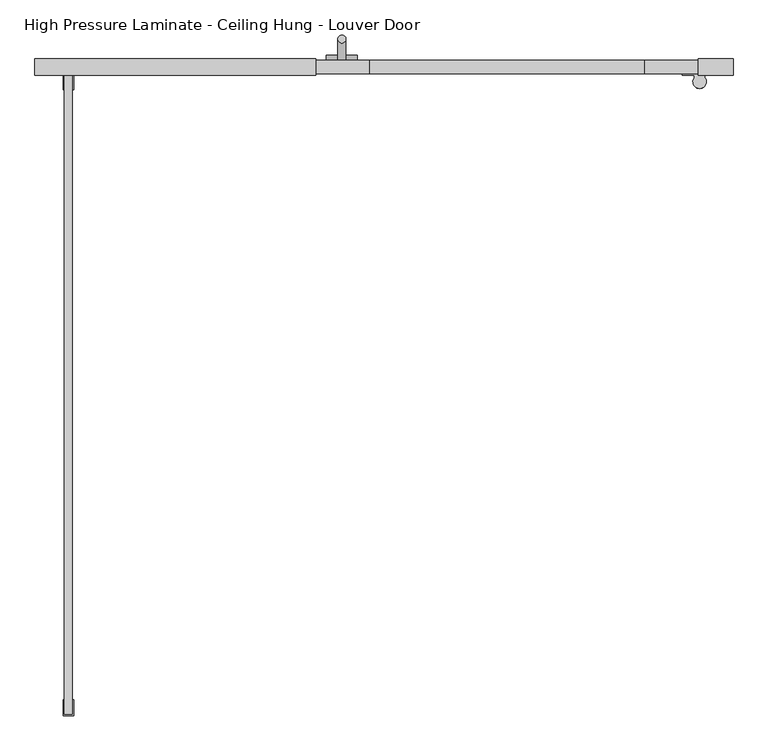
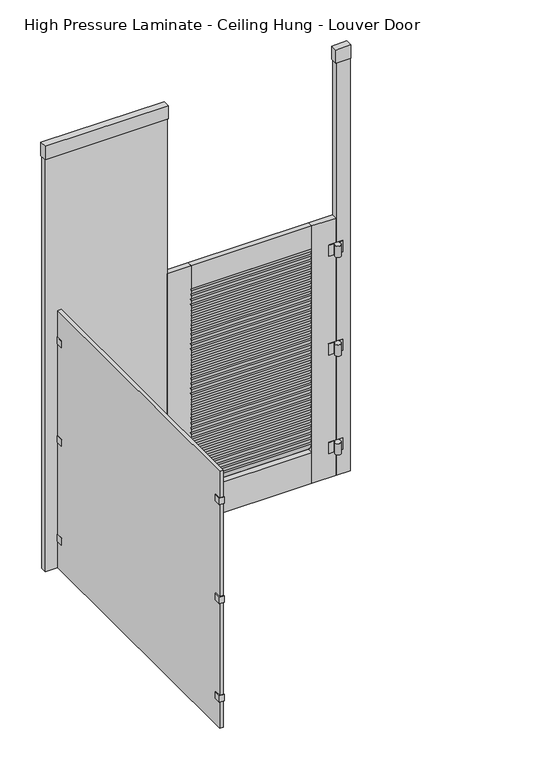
"""IFC4 building model written with IfcOpenShell, lengths in millimetres: proxy geometry, Toilet-Partition_Ironwood-Mfg_High-Pressure-Laminate : High Pressure Laminate - Ceiling Hung - Louver Door."""

from ifc_helpers import new_model, si_unit, point, frame, frame_2d, origin, place, context, project, spatial, polyline, circle_curve, ellipse_curve, trimmed, segment, composite_curve, outline, extrude, source, transform, mapped, element, save
from ifc_brep_helpers import plane_surface, cylinder_surface, advanced_brep


def high_pressure_laminate_ceiling_hung_louver_door_24030e85(model_context):
    return source(origin(), model_context, "Body", "SolidModel", [
        extrude(outline(polyline([(695.325, 1558.925), (777.875, 1558.925), (777.875, 1520.825), (695.325, 1520.825), (695.325, 1558.925)])), frame((0.0, 0.0, 2667.0), z_axis=(0.0, 0.0, 1.0), x_axis=(1.0, 0.0, 0.0)), (0.0, 0.0, 1.0), 76.1999999),
        extrude(outline(polyline([(0.0, -76.2), (0.0, 0.0), (31.75, 0.0), (31.75, -76.2), (0.0, -76.2)])), frame((698.5, 1524.0, 304.8), z_axis=(2.3625545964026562e-12, 0.0, 1.0), x_axis=(0.0, 1.0, 0.0)), (0.0, 0.0, 1.0), 2362.2),
        extrude(outline(polyline([(-212.725, 1558.925), (-212.725, 1520.825), (-879.475, 1520.825), (-879.475, 1558.925), (-212.725, 1558.925)])), frame((0.0, 0.0, 2667.0), z_axis=(0.0, 0.0, 1.0), x_axis=(1.0, 0.0, 0.0)), (0.0, 0.0, 1.0), 76.1999999),
        extrude(outline(polyline([(-876.3, 1524.0), (-876.3, 1555.75), (-215.9, 1555.75), (-215.9, 1524.0), (-876.3, 1524.0)])), frame((0.0, 0.0, 304.8), z_axis=(0.0, 0.0, 1.0), x_axis=(1.0, 0.0, 0.0)), (0.0, 0.0, 1.0), 2362.2),
        extrude(outline(composite_curve([segment(trimmed(circle_curve(frame_2d((1530.4138614, 1607.2565147)), 4.7625), [point((1526.1333548, 1605.1687721))], [point((1534.6943681, 1609.3442573))], False, "CARTESIAN"), True, "CONTINUOUS"), segment(polyline([(1534.6943681, 1609.3442573), (1553.8502647, 1570.0688488)]), True, "CONTINUOUS"), segment(trimmed(circle_curve(frame_2d((1549.5697581, 1567.9811062)), 4.7625), [point((1553.8502647, 1570.0688488))], [point((1545.2892514, 1565.8933636))], False, "CARTESIAN"), True, "CONTINUOUS"), segment(polyline([(1545.2892514, 1565.8933636), (1526.1333548, 1605.1687721)]), True, "CONTINUOUS")], self_intersect=False)), frame((-85.725, 0.0, 0.0), z_axis=(1.0, 0.0, 0.0), x_axis=(0.0, 1.0, 0.0)), (0.0, 0.0, 1.0), 654.05),
        extrude(outline(composite_curve([segment(trimmed(circle_curve(frame_2d((1530.4138614, 1578.9402604)), 4.7625), [point((1526.1333548, 1576.8525178))], [point((1534.6943681, 1581.0280029))], False, "CARTESIAN"), True, "CONTINUOUS"), segment(polyline([(1534.6943681, 1581.0280029), (1553.8502647, 1541.7525944)]), True, "CONTINUOUS"), segment(trimmed(circle_curve(frame_2d((1549.5697581, 1539.6648519)), 4.7625), [point((1553.8502647, 1541.7525944))], [point((1545.2892514, 1537.5771093))], False, "CARTESIAN"), True, "CONTINUOUS"), segment(polyline([(1545.2892514, 1537.5771093), (1526.1333548, 1576.8525178)]), True, "CONTINUOUS")], self_intersect=False)), frame((-85.725, 0.0, 0.0), z_axis=(1.0, 0.0, 0.0), x_axis=(0.0, 1.0, 0.0)), (0.0, 0.0, 1.0), 654.05),
        extrude(outline(composite_curve([segment(trimmed(circle_curve(frame_2d((1530.4138614, 1550.624006)), 4.7625), [point((1526.1333548, 1548.5362634))], [point((1534.6943681, 1552.7117486))], False, "CARTESIAN"), True, "CONTINUOUS"), segment(polyline([(1534.6943681, 1552.7117486), (1553.8502647, 1513.4363401)]), True, "CONTINUOUS"), segment(trimmed(circle_curve(frame_2d((1549.5697581, 1511.3485975)), 4.7625), [point((1553.8502647, 1513.4363401))], [point((1545.2892514, 1509.2608549))], False, "CARTESIAN"), True, "CONTINUOUS"), segment(polyline([(1545.2892514, 1509.2608549), (1526.1333548, 1548.5362634)]), True, "CONTINUOUS")], self_intersect=False)), frame((-85.725, 0.0, 0.0), z_axis=(1.0, 0.0, 0.0), x_axis=(0.0, 1.0, 0.0)), (0.0, 0.0, 1.0), 654.05),
        extrude(outline(composite_curve([segment(trimmed(circle_curve(frame_2d((1530.4138614, 1522.3077516)), 4.7625), [point((1526.1333548, 1520.220009))], [point((1534.6943681, 1524.3954942))], False, "CARTESIAN"), True, "CONTINUOUS"), segment(polyline([(1534.6943681, 1524.3954942), (1553.8502647, 1485.1200857)]), True, "CONTINUOUS"), segment(trimmed(circle_curve(frame_2d((1549.5697581, 1483.0323431)), 4.7625), [point((1553.8502647, 1485.1200857))], [point((1545.2892514, 1480.9446005))], False, "CARTESIAN"), True, "CONTINUOUS"), segment(polyline([(1545.2892514, 1480.9446005), (1526.1333548, 1520.220009)]), True, "CONTINUOUS")], self_intersect=False)), frame((-85.725, 0.0, 0.0), z_axis=(1.0, 0.0, 0.0), x_axis=(0.0, 1.0, 0.0)), (0.0, 0.0, 1.0), 654.05),
        extrude(outline(composite_curve([segment(trimmed(circle_curve(frame_2d((1530.4138614, 1493.9914973)), 4.7625), [point((1526.1333548, 1491.9037547))], [point((1534.6943681, 1496.0792398))], False, "CARTESIAN"), True, "CONTINUOUS"), segment(polyline([(1534.6943681, 1496.0792398), (1553.8502647, 1456.8038313)]), True, "CONTINUOUS"), segment(trimmed(circle_curve(frame_2d((1549.5697581, 1454.7160888)), 4.7625), [point((1553.8502647, 1456.8038313))], [point((1545.2892514, 1452.6283462))], False, "CARTESIAN"), True, "CONTINUOUS"), segment(polyline([(1545.2892514, 1452.6283462), (1526.1333548, 1491.9037547)]), True, "CONTINUOUS")], self_intersect=False)), frame((-85.725, 0.0, 0.0), z_axis=(1.0, 0.0, 0.0), x_axis=(0.0, 1.0, 0.0)), (0.0, 0.0, 1.0), 654.05),
        extrude(outline(composite_curve([segment(trimmed(circle_curve(frame_2d((1530.4138614, 1465.6752429)), 4.7625), [point((1526.1333548, 1463.5875003))], [point((1534.6943681, 1467.7629855))], False, "CARTESIAN"), True, "CONTINUOUS"), segment(polyline([(1534.6943681, 1467.7629855), (1553.8502647, 1428.487577)]), True, "CONTINUOUS"), segment(trimmed(circle_curve(frame_2d((1549.5697581, 1426.3998344)), 4.7625), [point((1553.8502647, 1428.487577))], [point((1545.2892514, 1424.3120918))], False, "CARTESIAN"), True, "CONTINUOUS"), segment(polyline([(1545.2892514, 1424.3120918), (1526.1333548, 1463.5875003)]), True, "CONTINUOUS")], self_intersect=False)), frame((-85.725, 0.0, 0.0), z_axis=(1.0, 0.0, 0.0), x_axis=(0.0, 1.0, 0.0)), (0.0, 0.0, 1.0), 654.05),
        extrude(outline(composite_curve([segment(trimmed(circle_curve(frame_2d((1530.4138614, 1437.3589885)), 4.7625), [point((1526.1333548, 1435.2712459))], [point((1534.6943681, 1439.4467311))], False, "CARTESIAN"), True, "CONTINUOUS"), segment(polyline([(1534.6943681, 1439.4467311), (1553.8502647, 1400.1713226)]), True, "CONTINUOUS"), segment(trimmed(circle_curve(frame_2d((1549.5697581, 1398.08358)), 4.7625), [point((1553.8502647, 1400.1713226))], [point((1545.2892514, 1395.9958374))], False, "CARTESIAN"), True, "CONTINUOUS"), segment(polyline([(1545.2892514, 1395.9958374), (1526.1333548, 1435.2712459)]), True, "CONTINUOUS")], self_intersect=False)), frame((-85.725, 0.0, 0.0), z_axis=(1.0, 0.0, 0.0), x_axis=(0.0, 1.0, 0.0)), (0.0, 0.0, 1.0), 654.05),
        extrude(outline(composite_curve([segment(trimmed(circle_curve(frame_2d((1530.4138614, 1409.0427342)), 4.7625), [point((1526.1333548, 1406.9549916))], [point((1534.6943681, 1411.1304767))], False, "CARTESIAN"), True, "CONTINUOUS"), segment(polyline([(1534.6943681, 1411.1304767), (1553.8502647, 1371.8550682)]), True, "CONTINUOUS"), segment(trimmed(circle_curve(frame_2d((1549.5697581, 1369.7673257)), 4.7625), [point((1553.8502647, 1371.8550682))], [point((1545.2892514, 1367.6795831))], False, "CARTESIAN"), True, "CONTINUOUS"), segment(polyline([(1545.2892514, 1367.6795831), (1526.1333548, 1406.9549916)]), True, "CONTINUOUS")], self_intersect=False)), frame((-85.725, 0.0, 0.0), z_axis=(1.0, 0.0, 0.0), x_axis=(0.0, 1.0, 0.0)), (0.0, 0.0, 1.0), 654.05),
        extrude(outline(composite_curve([segment(trimmed(circle_curve(frame_2d((1530.4138614, 1380.7264798)), 4.7625), [point((1526.1333548, 1378.6387372))], [point((1534.6943681, 1382.8142224))], False, "CARTESIAN"), True, "CONTINUOUS"), segment(polyline([(1534.6943681, 1382.8142224), (1553.8502647, 1343.5388139)]), True, "CONTINUOUS"), segment(trimmed(circle_curve(frame_2d((1549.5697581, 1341.4510713)), 4.7625), [point((1553.8502647, 1343.5388139))], [point((1545.2892514, 1339.3633287))], False, "CARTESIAN"), True, "CONTINUOUS"), segment(polyline([(1545.2892514, 1339.3633287), (1526.1333548, 1378.6387372)]), True, "CONTINUOUS")], self_intersect=False)), frame((-85.725, 0.0, 0.0), z_axis=(1.0, 0.0, 0.0), x_axis=(0.0, 1.0, 0.0)), (0.0, 0.0, 1.0), 654.05),
        extrude(outline(composite_curve([segment(trimmed(circle_curve(frame_2d((1530.4138614, 1352.4102254)), 4.7625), [point((1526.1333548, 1350.3224828))], [point((1534.6943681, 1354.497968))], False, "CARTESIAN"), True, "CONTINUOUS"), segment(polyline([(1534.6943681, 1354.497968), (1553.8502647, 1315.2225595)]), True, "CONTINUOUS"), segment(trimmed(circle_curve(frame_2d((1549.5697581, 1313.1348169)), 4.7625), [point((1553.8502647, 1315.2225595))], [point((1545.2892514, 1311.0470743))], False, "CARTESIAN"), True, "CONTINUOUS"), segment(polyline([(1545.2892514, 1311.0470743), (1526.1333548, 1350.3224828)]), True, "CONTINUOUS")], self_intersect=False)), frame((-85.725, 0.0, 0.0), z_axis=(1.0, 0.0, 0.0), x_axis=(0.0, 1.0, 0.0)), (0.0, 0.0, 1.0), 654.05),
        extrude(outline(composite_curve([segment(trimmed(circle_curve(frame_2d((1530.4138614, 1324.0939711)), 4.7625), [point((1526.1333548, 1322.0062285))], [point((1534.6943681, 1326.1817137))], False, "CARTESIAN"), True, "CONTINUOUS"), segment(polyline([(1534.6943681, 1326.1817137), (1553.8502647, 1286.9063052)]), True, "CONTINUOUS"), segment(trimmed(circle_curve(frame_2d((1549.5697581, 1284.8185626)), 4.7625), [point((1553.8502647, 1286.9063052))], [point((1545.2892514, 1282.73082))], False, "CARTESIAN"), True, "CONTINUOUS"), segment(polyline([(1545.2892514, 1282.73082), (1526.1333548, 1322.0062285)]), True, "CONTINUOUS")], self_intersect=False)), frame((-85.725, 0.0, 0.0), z_axis=(1.0, 0.0, 0.0), x_axis=(0.0, 1.0, 0.0)), (0.0, 0.0, 1.0), 654.05),
        extrude(outline(composite_curve([segment(trimmed(circle_curve(frame_2d((1530.4138614, 1295.7777167)), 4.7625), [point((1526.1333548, 1293.6899741))], [point((1534.6943681, 1297.8654593))], False, "CARTESIAN"), True, "CONTINUOUS"), segment(polyline([(1534.6943681, 1297.8654593), (1553.8502647, 1258.5900508)]), True, "CONTINUOUS"), segment(trimmed(circle_curve(frame_2d((1549.5697581, 1256.5023082)), 4.7625), [point((1553.8502647, 1258.5900508))], [point((1545.2892514, 1254.4145656))], False, "CARTESIAN"), True, "CONTINUOUS"), segment(polyline([(1545.2892514, 1254.4145656), (1526.1333548, 1293.6899741)]), True, "CONTINUOUS")], self_intersect=False)), frame((-85.725, 0.0, 0.0), z_axis=(1.0, 0.0, 0.0), x_axis=(0.0, 1.0, 0.0)), (0.0, 0.0, 1.0), 654.05),
        extrude(outline(composite_curve([segment(trimmed(circle_curve(frame_2d((1530.4138614, 1267.4614623)), 4.7625), [point((1526.1333548, 1265.3737197))], [point((1534.6943681, 1269.5492049))], False, "CARTESIAN"), True, "CONTINUOUS"), segment(polyline([(1534.6943681, 1269.5492049), (1553.8502647, 1230.2737964)]), True, "CONTINUOUS"), segment(trimmed(circle_curve(frame_2d((1549.5697581, 1228.1860538)), 4.7625), [point((1553.8502647, 1230.2737964))], [point((1545.2892514, 1226.0983112))], False, "CARTESIAN"), True, "CONTINUOUS"), segment(polyline([(1545.2892514, 1226.0983112), (1526.1333548, 1265.3737197)]), True, "CONTINUOUS")], self_intersect=False)), frame((-85.725, 0.0, 0.0), z_axis=(1.0, 0.0, 0.0), x_axis=(0.0, 1.0, 0.0)), (0.0, 0.0, 1.0), 654.05),
        extrude(outline(composite_curve([segment(trimmed(circle_curve(frame_2d((1530.4138614, 1239.145208)), 4.7625), [point((1526.1333548, 1237.0574654))], [point((1534.6943681, 1241.2329506))], False, "CARTESIAN"), True, "CONTINUOUS"), segment(polyline([(1534.6943681, 1241.2329506), (1553.8502647, 1201.9575421)]), True, "CONTINUOUS"), segment(trimmed(circle_curve(frame_2d((1549.5697581, 1199.8697995)), 4.7625), [point((1553.8502647, 1201.9575421))], [point((1545.2892514, 1197.7820569))], False, "CARTESIAN"), True, "CONTINUOUS"), segment(polyline([(1545.2892514, 1197.7820569), (1526.1333548, 1237.0574654)]), True, "CONTINUOUS")], self_intersect=False)), frame((-85.725, 0.0, 0.0), z_axis=(1.0, 0.0, 0.0), x_axis=(0.0, 1.0, 0.0)), (0.0, 0.0, 1.0), 654.05),
        extrude(outline(composite_curve([segment(trimmed(circle_curve(frame_2d((1530.4138614, 1210.8289536)), 4.7625), [point((1526.1333548, 1208.741211))], [point((1534.6943681, 1212.9166962))], False, "CARTESIAN"), True, "CONTINUOUS"), segment(polyline([(1534.6943681, 1212.9166962), (1553.8502647, 1173.6412877)]), True, "CONTINUOUS"), segment(trimmed(circle_curve(frame_2d((1549.5697581, 1171.5535451)), 4.7625), [point((1553.8502647, 1173.6412877))], [point((1545.2892514, 1169.4658025))], False, "CARTESIAN"), True, "CONTINUOUS"), segment(polyline([(1545.2892514, 1169.4658025), (1526.1333548, 1208.741211)]), True, "CONTINUOUS")], self_intersect=False)), frame((-85.725, 0.0, 0.0), z_axis=(1.0, 0.0, 0.0), x_axis=(0.0, 1.0, 0.0)), (0.0, 0.0, 1.0), 654.05),
        extrude(outline(composite_curve([segment(trimmed(circle_curve(frame_2d((1530.4138614, 1182.5126992)), 4.7625), [point((1526.1333548, 1180.4249567))], [point((1534.6943681, 1184.6004418))], False, "CARTESIAN"), True, "CONTINUOUS"), segment(polyline([(1534.6943681, 1184.6004418), (1553.8502647, 1145.3250333)]), True, "CONTINUOUS"), segment(trimmed(circle_curve(frame_2d((1549.5697581, 1143.2372907)), 4.7625), [point((1553.8502647, 1145.3250333))], [point((1545.2892514, 1141.1495482))], False, "CARTESIAN"), True, "CONTINUOUS"), segment(polyline([(1545.2892514, 1141.1495482), (1526.1333548, 1180.4249567)]), True, "CONTINUOUS")], self_intersect=False)), frame((-85.725, 0.0, 0.0), z_axis=(1.0, 0.0, 0.0), x_axis=(0.0, 1.0, 0.0)), (0.0, 0.0, 1.0), 654.05),
        extrude(outline(composite_curve([segment(trimmed(circle_curve(frame_2d((1530.4138614, 1154.1964449)), 4.7625), [point((1526.1333548, 1152.1087023))], [point((1534.6943681, 1156.2841875))], False, "CARTESIAN"), True, "CONTINUOUS"), segment(polyline([(1534.6943681, 1156.2841875), (1553.8502647, 1117.008779)]), True, "CONTINUOUS"), segment(trimmed(circle_curve(frame_2d((1549.5697581, 1114.9210364)), 4.7625), [point((1553.8502647, 1117.008779))], [point((1545.2892514, 1112.8332938))], False, "CARTESIAN"), True, "CONTINUOUS"), segment(polyline([(1545.2892514, 1112.8332938), (1526.1333548, 1152.1087023)]), True, "CONTINUOUS")], self_intersect=False)), frame((-85.725, 0.0, 0.0), z_axis=(1.0, 0.0, 0.0), x_axis=(0.0, 1.0, 0.0)), (0.0, 0.0, 1.0), 654.05),
        extrude(outline(composite_curve([segment(trimmed(circle_curve(frame_2d((1530.4138614, 1125.8801905)), 4.7625), [point((1526.1333548, 1123.7924479))], [point((1534.6943681, 1127.9679331))], False, "CARTESIAN"), True, "CONTINUOUS"), segment(polyline([(1534.6943681, 1127.9679331), (1553.8502647, 1088.6925246)]), True, "CONTINUOUS"), segment(trimmed(circle_curve(frame_2d((1549.5697581, 1086.604782)), 4.7625), [point((1553.8502647, 1088.6925246))], [point((1545.2892514, 1084.5170394))], False, "CARTESIAN"), True, "CONTINUOUS"), segment(polyline([(1545.2892514, 1084.5170394), (1526.1333548, 1123.7924479)]), True, "CONTINUOUS")], self_intersect=False)), frame((-85.725, 0.0, 0.0), z_axis=(1.0, 0.0, 0.0), x_axis=(0.0, 1.0, 0.0)), (0.0, 0.0, 1.0), 654.05),
        extrude(outline(composite_curve([segment(trimmed(circle_curve(frame_2d((1530.4138614, 1097.5639361)), 4.7625), [point((1526.1333548, 1095.4761936))], [point((1534.6943681, 1099.6516787))], False, "CARTESIAN"), True, "CONTINUOUS"), segment(polyline([(1534.6943681, 1099.6516787), (1553.8502647, 1060.3762702)]), True, "CONTINUOUS"), segment(trimmed(circle_curve(frame_2d((1549.5697581, 1058.2885276)), 4.7625), [point((1553.8502647, 1060.3762702))], [point((1545.2892514, 1056.2007851))], False, "CARTESIAN"), True, "CONTINUOUS"), segment(polyline([(1545.2892514, 1056.2007851), (1526.1333548, 1095.4761936)]), True, "CONTINUOUS")], self_intersect=False)), frame((-85.725, 0.0, 0.0), z_axis=(1.0, 0.0, 0.0), x_axis=(0.0, 1.0, 0.0)), (0.0, 0.0, 1.0), 654.05),
        extrude(outline(composite_curve([segment(trimmed(circle_curve(frame_2d((1530.4138614, 1069.2476818)), 4.7625), [point((1526.1333548, 1067.1599392))], [point((1534.6943681, 1071.3354244))], False, "CARTESIAN"), True, "CONTINUOUS"), segment(polyline([(1534.6943681, 1071.3354244), (1553.8502647, 1032.0600159)]), True, "CONTINUOUS"), segment(trimmed(circle_curve(frame_2d((1549.5697581, 1029.9722733)), 4.7625), [point((1553.8502647, 1032.0600159))], [point((1545.2892514, 1027.8845307))], False, "CARTESIAN"), True, "CONTINUOUS"), segment(polyline([(1545.2892514, 1027.8845307), (1526.1333548, 1067.1599392)]), True, "CONTINUOUS")], self_intersect=False)), frame((-85.725, 0.0, 0.0), z_axis=(1.0, 0.0, 0.0), x_axis=(0.0, 1.0, 0.0)), (0.0, 0.0, 1.0), 654.05),
        extrude(outline(composite_curve([segment(trimmed(circle_curve(frame_2d((1530.4138614, 1040.9314274)), 4.7625), [point((1526.1333548, 1038.8436848))], [point((1534.6943681, 1043.01917))], False, "CARTESIAN"), True, "CONTINUOUS"), segment(polyline([(1534.6943681, 1043.01917), (1553.8502647, 1003.7437615)]), True, "CONTINUOUS"), segment(trimmed(circle_curve(frame_2d((1549.5697581, 1001.6560189)), 4.7625), [point((1553.8502647, 1003.7437615))], [point((1545.2892514, 999.5682763))], False, "CARTESIAN"), True, "CONTINUOUS"), segment(polyline([(1545.2892514, 999.5682763), (1526.1333548, 1038.8436848)]), True, "CONTINUOUS")], self_intersect=False)), frame((-85.725, 0.0, 0.0), z_axis=(1.0, 0.0, 0.0), x_axis=(0.0, 1.0, 0.0)), (0.0, 0.0, 1.0), 654.05),
        extrude(outline(composite_curve([segment(trimmed(circle_curve(frame_2d((1530.4138614, 1012.615173)), 4.7625), [point((1526.1333548, 1010.5274305))], [point((1534.6943681, 1014.7029156))], False, "CARTESIAN"), True, "CONTINUOUS"), segment(polyline([(1534.6943681, 1014.7029156), (1553.8502647, 975.4275071)]), True, "CONTINUOUS"), segment(trimmed(circle_curve(frame_2d((1549.5697581, 973.3397645)), 4.7625), [point((1553.8502647, 975.4275071))], [point((1545.2892514, 971.252022))], False, "CARTESIAN"), True, "CONTINUOUS"), segment(polyline([(1545.2892514, 971.252022), (1526.1333548, 1010.5274305)]), True, "CONTINUOUS")], self_intersect=False)), frame((-85.725, 0.0, 0.0), z_axis=(1.0, 0.0, 0.0), x_axis=(0.0, 1.0, 0.0)), (0.0, 0.0, 1.0), 654.05),
        extrude(outline(composite_curve([segment(trimmed(circle_curve(frame_2d((1530.4138614, 984.2989187)), 4.7625), [point((1526.1333548, 982.2111761))], [point((1534.6943681, 986.3866613))], False, "CARTESIAN"), True, "CONTINUOUS"), segment(polyline([(1534.6943681, 986.3866613), (1553.8502647, 947.1112528)]), True, "CONTINUOUS"), segment(trimmed(circle_curve(frame_2d((1549.5697581, 945.0235102)), 4.7625), [point((1553.8502647, 947.1112528))], [point((1545.2892514, 942.9357676))], False, "CARTESIAN"), True, "CONTINUOUS"), segment(polyline([(1545.2892514, 942.9357676), (1526.1333548, 982.2111761)]), True, "CONTINUOUS")], self_intersect=False)), frame((-85.725, 0.0, 0.0), z_axis=(1.0, 0.0, 0.0), x_axis=(0.0, 1.0, 0.0)), (0.0, 0.0, 1.0), 654.05),
        extrude(outline(composite_curve([segment(trimmed(circle_curve(frame_2d((1530.4138614, 955.9826643)), 4.7625), [point((1526.1333548, 953.8949217))], [point((1534.6943681, 958.0704069))], False, "CARTESIAN"), True, "CONTINUOUS"), segment(polyline([(1534.6943681, 958.0704069), (1553.8502647, 918.7949984)]), True, "CONTINUOUS"), segment(trimmed(circle_curve(frame_2d((1549.5697581, 916.7072558)), 4.7625), [point((1553.8502647, 918.7949984))], [point((1545.2892514, 914.6195132))], False, "CARTESIAN"), True, "CONTINUOUS"), segment(polyline([(1545.2892514, 914.6195132), (1526.1333548, 953.8949217)]), True, "CONTINUOUS")], self_intersect=False)), frame((-85.725, 0.0, 0.0), z_axis=(1.0, 0.0, 0.0), x_axis=(0.0, 1.0, 0.0)), (0.0, 0.0, 1.0), 654.05),
        extrude(outline(composite_curve([segment(trimmed(circle_curve(frame_2d((1530.4138614, 927.6664099)), 4.7625), [point((1526.1333548, 925.5786674))], [point((1534.6943681, 929.7541525))], False, "CARTESIAN"), True, "CONTINUOUS"), segment(polyline([(1534.6943681, 929.7541525), (1553.8502647, 890.478744)]), True, "CONTINUOUS"), segment(trimmed(circle_curve(frame_2d((1549.5697581, 888.3910014)), 4.7625), [point((1553.8502647, 890.478744))], [point((1545.2892514, 886.3032589))], False, "CARTESIAN"), True, "CONTINUOUS"), segment(polyline([(1545.2892514, 886.3032589), (1526.1333548, 925.5786674)]), True, "CONTINUOUS")], self_intersect=False)), frame((-85.725, 0.0, 0.0), z_axis=(1.0, 0.0, 0.0), x_axis=(0.0, 1.0, 0.0)), (0.0, 0.0, 1.0), 654.05),
        extrude(outline(composite_curve([segment(trimmed(circle_curve(frame_2d((1530.4138614, 899.3501556)), 4.7625), [point((1526.1333548, 897.262413))], [point((1534.6943681, 901.4378982))], False, "CARTESIAN"), True, "CONTINUOUS"), segment(polyline([(1534.6943681, 901.4378982), (1553.8502647, 862.1624897)]), True, "CONTINUOUS"), segment(trimmed(circle_curve(frame_2d((1549.5697581, 860.0747471)), 4.7625), [point((1553.8502647, 862.1624897))], [point((1545.2892514, 857.9870045))], False, "CARTESIAN"), True, "CONTINUOUS"), segment(polyline([(1545.2892514, 857.9870045), (1526.1333548, 897.262413)]), True, "CONTINUOUS")], self_intersect=False)), frame((-85.725, 0.0, 0.0), z_axis=(1.0, 0.0, 0.0), x_axis=(0.0, 1.0, 0.0)), (0.0, 0.0, 1.0), 654.05),
        extrude(outline(composite_curve([segment(trimmed(circle_curve(frame_2d((1530.4138614, 871.0339012)), 4.7625), [point((1526.1333548, 868.9461586))], [point((1534.6943681, 873.1216438))], False, "CARTESIAN"), True, "CONTINUOUS"), segment(polyline([(1534.6943681, 873.1216438), (1553.8502647, 833.8462353)]), True, "CONTINUOUS"), segment(trimmed(circle_curve(frame_2d((1549.5697581, 831.7584927)), 4.7625), [point((1553.8502647, 833.8462353))], [point((1545.2892514, 829.6707501))], False, "CARTESIAN"), True, "CONTINUOUS"), segment(polyline([(1545.2892514, 829.6707501), (1526.1333548, 868.9461586)]), True, "CONTINUOUS")], self_intersect=False)), frame((-85.725, 0.0, 0.0), z_axis=(1.0, 0.0, 0.0), x_axis=(0.0, 1.0, 0.0)), (0.0, 0.0, 1.0), 654.05),
        extrude(outline(composite_curve([segment(trimmed(circle_curve(frame_2d((1530.4138614, 842.7176469)), 4.7625), [point((1526.1333548, 840.6299043))], [point((1534.6943681, 844.8053894))], False, "CARTESIAN"), True, "CONTINUOUS"), segment(polyline([(1534.6943681, 844.8053894), (1553.8502647, 805.5299809)]), True, "CONTINUOUS"), segment(trimmed(circle_curve(frame_2d((1549.5697581, 803.4422384)), 4.7625), [point((1553.8502647, 805.5299809))], [point((1545.2892514, 801.3544958))], False, "CARTESIAN"), True, "CONTINUOUS"), segment(polyline([(1545.2892514, 801.3544958), (1526.1333548, 840.6299043)]), True, "CONTINUOUS")], self_intersect=False)), frame((-85.725, 0.0, 0.0), z_axis=(1.0, 0.0, 0.0), x_axis=(0.0, 1.0, 0.0)), (0.0, 0.0, 1.0), 654.05),
        extrude(outline(composite_curve([segment(trimmed(circle_curve(frame_2d((1530.4138614, 814.4013925)), 4.7625), [point((1526.1333548, 812.3136499))], [point((1534.6943681, 816.4891351))], False, "CARTESIAN"), True, "CONTINUOUS"), segment(polyline([(1534.6943681, 816.4891351), (1553.8502647, 777.2137266)]), True, "CONTINUOUS"), segment(trimmed(circle_curve(frame_2d((1549.5697581, 775.125984)), 4.7625), [point((1553.8502647, 777.2137266))], [point((1545.2892514, 773.0382414))], False, "CARTESIAN"), True, "CONTINUOUS"), segment(polyline([(1545.2892514, 773.0382414), (1526.1333548, 812.3136499)]), True, "CONTINUOUS")], self_intersect=False)), frame((-85.725, 0.0, 0.0), z_axis=(1.0, 0.0, 0.0), x_axis=(0.0, 1.0, 0.0)), (0.0, 0.0, 1.0), 654.05),
        extrude(outline(composite_curve([segment(trimmed(circle_curve(frame_2d((1530.4138614, 786.0851381)), 4.7625), [point((1526.1333548, 783.9973955))], [point((1534.6943681, 788.1728807))], False, "CARTESIAN"), True, "CONTINUOUS"), segment(polyline([(1534.6943681, 788.1728807), (1553.8502647, 748.8974722)]), True, "CONTINUOUS"), segment(trimmed(circle_curve(frame_2d((1549.5697581, 746.8097296)), 4.7625), [point((1553.8502647, 748.8974722))], [point((1545.2892514, 744.721987))], False, "CARTESIAN"), True, "CONTINUOUS"), segment(polyline([(1545.2892514, 744.721987), (1526.1333548, 783.9973955)]), True, "CONTINUOUS")], self_intersect=False)), frame((-85.725, 0.0, 0.0), z_axis=(1.0, 0.0, 0.0), x_axis=(0.0, 1.0, 0.0)), (0.0, 0.0, 1.0), 654.05),
        extrude(outline(composite_curve([segment(trimmed(circle_curve(frame_2d((1530.4138614, 757.7688838)), 4.7625), [point((1526.1333548, 755.6811412))], [point((1534.6943681, 759.8566263))], False, "CARTESIAN"), True, "CONTINUOUS"), segment(polyline([(1534.6943681, 759.8566263), (1553.8502647, 720.5812178)]), True, "CONTINUOUS"), segment(trimmed(circle_curve(frame_2d((1549.5697581, 718.4934753)), 4.7625), [point((1553.8502647, 720.5812178))], [point((1545.2892514, 716.4057327))], False, "CARTESIAN"), True, "CONTINUOUS"), segment(polyline([(1545.2892514, 716.4057327), (1526.1333548, 755.6811412)]), True, "CONTINUOUS")], self_intersect=False)), frame((-85.725, 0.0, 0.0), z_axis=(1.0, 0.0, 0.0), x_axis=(0.0, 1.0, 0.0)), (0.0, 0.0, 1.0), 654.05),
        extrude(outline(composite_curve([segment(trimmed(circle_curve(frame_2d((1530.4138614, 729.4526294)), 4.7625), [point((1526.1333548, 727.3648868))], [point((1534.6943681, 731.540372))], False, "CARTESIAN"), True, "CONTINUOUS"), segment(polyline([(1534.6943681, 731.540372), (1553.8502647, 692.2649635)]), True, "CONTINUOUS"), segment(trimmed(circle_curve(frame_2d((1549.5697581, 690.1772209)), 4.7625), [point((1553.8502647, 692.2649635))], [point((1545.2892514, 688.0894783))], False, "CARTESIAN"), True, "CONTINUOUS"), segment(polyline([(1545.2892514, 688.0894783), (1526.1333548, 727.3648868)]), True, "CONTINUOUS")], self_intersect=False)), frame((-85.725, 0.0, 0.0), z_axis=(1.0, 0.0, 0.0), x_axis=(0.0, 1.0, 0.0)), (0.0, 0.0, 1.0), 654.05),
        extrude(outline(composite_curve([segment(trimmed(circle_curve(frame_2d((1530.4138614, 701.136375)), 4.7625), [point((1526.1333548, 699.0486324))], [point((1534.6943681, 703.2241176))], False, "CARTESIAN"), True, "CONTINUOUS"), segment(polyline([(1534.6943681, 703.2241176), (1553.8502647, 663.9487091)]), True, "CONTINUOUS"), segment(trimmed(circle_curve(frame_2d((1549.5697581, 661.8609665)), 4.7625), [point((1553.8502647, 663.9487091))], [point((1545.2892514, 659.7732239))], False, "CARTESIAN"), True, "CONTINUOUS"), segment(polyline([(1545.2892514, 659.7732239), (1526.1333548, 699.0486324)]), True, "CONTINUOUS")], self_intersect=False)), frame((-85.725, 0.0, 0.0), z_axis=(1.0, 0.0, 0.0), x_axis=(0.0, 1.0, 0.0)), (0.0, 0.0, 1.0), 654.05),
        extrude(outline(composite_curve([segment(trimmed(circle_curve(frame_2d((1530.4138614, 672.8201207)), 4.7625), [point((1526.1333548, 670.7323781))], [point((1534.6943681, 674.9078632))], False, "CARTESIAN"), True, "CONTINUOUS"), segment(polyline([(1534.6943681, 674.9078632), (1553.8502647, 635.6324547)]), True, "CONTINUOUS"), segment(trimmed(circle_curve(frame_2d((1549.5697581, 633.5447122)), 4.7625), [point((1553.8502647, 635.6324547))], [point((1545.2892514, 631.4569696))], False, "CARTESIAN"), True, "CONTINUOUS"), segment(polyline([(1545.2892514, 631.4569696), (1526.1333548, 670.7323781)]), True, "CONTINUOUS")], self_intersect=False)), frame((-85.725, 0.0, 0.0), z_axis=(1.0, 0.0, 0.0), x_axis=(0.0, 1.0, 0.0)), (0.0, 0.0, 1.0), 654.05),
        extrude(outline(composite_curve([segment(trimmed(circle_curve(frame_2d((1530.4138614, 644.5038663)), 4.7625), [point((1526.1333548, 642.4161237))], [point((1534.6943681, 646.5916089))], False, "CARTESIAN"), True, "CONTINUOUS"), segment(polyline([(1534.6943681, 646.5916089), (1553.8502647, 607.3162004)]), True, "CONTINUOUS"), segment(trimmed(circle_curve(frame_2d((1549.5697581, 605.2284578)), 4.7625), [point((1553.8502647, 607.3162004))], [point((1545.2892514, 603.1407152))], False, "CARTESIAN"), True, "CONTINUOUS"), segment(polyline([(1545.2892514, 603.1407152), (1526.1333548, 642.4161237)]), True, "CONTINUOUS")], self_intersect=False)), frame((-85.725, 0.0, 0.0), z_axis=(1.0, 0.0, 0.0), x_axis=(0.0, 1.0, 0.0)), (0.0, 0.0, 1.0), 654.05),
        extrude(outline(composite_curve([segment(trimmed(circle_curve(frame_2d((1530.4138614, 616.1876119)), 4.7625), [point((1526.1333548, 614.0998693))], [point((1534.6943681, 618.2753545))], False, "CARTESIAN"), True, "CONTINUOUS"), segment(polyline([(1534.6943681, 618.2753545), (1553.8502647, 578.999946)]), True, "CONTINUOUS"), segment(trimmed(circle_curve(frame_2d((1549.5697581, 576.9122034)), 4.7625), [point((1553.8502647, 578.999946))], [point((1545.2892514, 574.8244608))], False, "CARTESIAN"), True, "CONTINUOUS"), segment(polyline([(1545.2892514, 574.8244608), (1526.1333548, 614.0998693)]), True, "CONTINUOUS")], self_intersect=False)), frame((-85.725, 0.0, 0.0), z_axis=(1.0, 0.0, 0.0), x_axis=(0.0, 1.0, 0.0)), (0.0, 0.0, 1.0), 654.05),
        extrude(outline(composite_curve([segment(trimmed(circle_curve(frame_2d((1530.4138614, 587.8713576)), 4.7625), [point((1526.1333548, 585.783615))], [point((1534.6943681, 589.9591001))], False, "CARTESIAN"), True, "CONTINUOUS"), segment(polyline([(1534.6943681, 589.9591001), (1553.8502647, 550.6836917)]), True, "CONTINUOUS"), segment(trimmed(circle_curve(frame_2d((1549.5697581, 548.5959491)), 4.7625), [point((1553.8502647, 550.6836917))], [point((1545.2892514, 546.5082065))], False, "CARTESIAN"), True, "CONTINUOUS"), segment(polyline([(1545.2892514, 546.5082065), (1526.1333548, 585.783615)]), True, "CONTINUOUS")], self_intersect=False)), frame((-85.725, 0.0, 0.0), z_axis=(1.0, 0.0, 0.0), x_axis=(0.0, 1.0, 0.0)), (0.0, 0.0, 1.0), 654.05),
        extrude(outline(composite_curve([segment(trimmed(circle_curve(frame_2d((1530.4138614, 559.5551032)), 4.7625), [point((1526.1333548, 557.4673606))], [point((1534.6943681, 561.6428458))], False, "CARTESIAN"), True, "CONTINUOUS"), segment(polyline([(1534.6943681, 561.6428458), (1553.8502647, 522.3674373)]), True, "CONTINUOUS"), segment(trimmed(circle_curve(frame_2d((1549.5697581, 520.2796947)), 4.7625), [point((1553.8502647, 522.3674373))], [point((1545.2892514, 518.1919521))], False, "CARTESIAN"), True, "CONTINUOUS"), segment(polyline([(1545.2892514, 518.1919521), (1526.1333548, 557.4673606)]), True, "CONTINUOUS")], self_intersect=False)), frame((-85.725, 0.0, 0.0), z_axis=(1.0, 0.0, 0.0), x_axis=(0.0, 1.0, 0.0)), (0.0, 0.0, 1.0), 654.05),
        extrude(outline(composite_curve([segment(trimmed(circle_curve(frame_2d((1530.4138614, 1635.5727691)), 4.7625), [point((1526.1333548, 1633.4850265))], [point((1534.6943681, 1637.6605117))], False, "CARTESIAN"), True, "CONTINUOUS"), segment(polyline([(1534.6943681, 1637.6605117), (1553.8502647, 1598.3851032)]), True, "CONTINUOUS"), segment(trimmed(circle_curve(frame_2d((1549.5697581, 1596.2973606)), 4.7625), [point((1553.8502647, 1598.3851032))], [point((1545.2892514, 1594.209618))], False, "CARTESIAN"), True, "CONTINUOUS"), segment(polyline([(1545.2892514, 1594.209618), (1526.1333548, 1633.4850265)]), True, "CONTINUOUS")], self_intersect=False)), frame((-85.725, 0.0, 0.0), z_axis=(1.0, 0.0, 0.0), x_axis=(0.0, 1.0, 0.0)), (0.0, 0.0, 1.0), 654.05),
        extrude(outline(composite_curve([segment(trimmed(circle_curve(frame_2d((1530.4138614, 531.2388488)), 4.7625), [point((1526.1333548, 529.1511062))], [point((1534.6943681, 533.3265914))], False, "CARTESIAN"), True, "CONTINUOUS"), segment(polyline([(1534.6943681, 533.3265914), (1553.8502647, 494.0511829)]), True, "CONTINUOUS"), segment(trimmed(circle_curve(frame_2d((1549.5697581, 491.9634403)), 4.7625), [point((1553.8502647, 494.0511829))], [point((1545.2892514, 489.8756977))], False, "CARTESIAN"), True, "CONTINUOUS"), segment(polyline([(1545.2892514, 489.8756977), (1526.1333548, 529.1511062)]), True, "CONTINUOUS")], self_intersect=False)), frame((-85.725, 0.0, 0.0), z_axis=(1.0, 0.0, 0.0), x_axis=(0.0, 1.0, 0.0)), (0.0, 0.0, 1.0), 654.05),
        extrude(outline(polyline([(-85.725, 1524.0), (-215.9, 1524.0), (-215.9, 1555.75), (-85.725, 1555.75), (-85.725, 1524.0)])), frame((0.0, 0.0, 304.8), z_axis=(0.0, 0.0, 1.0), x_axis=(1.0, 0.0, 0.0)), (0.0, 0.0, 1.0), 1473.2),
        extrude(outline(polyline([(568.325, 1524.0), (568.325, 1555.75), (698.5, 1555.75), (698.5, 1524.0), (568.325, 1524.0)])), frame((0.0, 0.0, 304.8), z_axis=(0.0, 0.0, 1.0), x_axis=(1.0, 0.0, 0.0)), (0.0, 0.0, 1.0), 1473.2),
        extrude(outline(polyline([(568.325, 1524.0), (-85.725, 1524.0), (-85.725, 1555.75), (568.325, 1555.75), (568.325, 1524.0)])), frame((0.0, 0.0, 1647.825), z_axis=(0.0, 0.0, 1.0), x_axis=(1.0, 0.0, 0.0)), (0.0, 0.0, 1.0), 130.175),
        extrude(outline(polyline([(568.325, 1524.0), (-85.725, 1524.0), (-85.725, 1555.75), (568.325, 1555.75), (568.325, 1524.0)])), frame((0.0, 0.0, 304.8), z_axis=(0.0, 0.0, 1.0), x_axis=(1.0, 0.0, 0.0)), (0.0, 0.0, 1.0), 174.625),
        extrude(outline(composite_curve([segment(trimmed(circle_curve(frame_2d((827.0875, -150.8125)), 36.5125), [point((827.0875, -187.325))], [point((827.0875, -114.3))], False, "CARTESIAN"), True, "CONTINUOUS"), segment(trimmed(circle_curve(frame_2d((827.0875, -150.8125)), 36.5125), [point((827.0875, -114.3))], [point((827.0875, -187.325))], False, "CARTESIAN"), True, "CONTINUOUS")], self_intersect=False)), frame((0.0, 1555.75, 0.0), z_axis=(0.0, 1.0, 0.0), x_axis=(0.0, 0.0, 1.0)), (0.0, 0.0, 1.0), 12.7),
        advanced_brep(
        [(-160.3375, 1555.75, 1092.2), (-141.2875, 1555.75, 1092.2), (-160.3375, 1555.75, 990.6), (-141.2875, 1555.75, 990.6), (-160.3375, 1606.55, 1092.2), (-141.2875, 1606.55, 1092.2), (-160.3375, 1606.55, 990.6), (-141.2875, 1606.55, 990.6), (-160.3375, 1606.55, 1143.0), (-141.2875, 1606.55, 1143.0), (-160.3375, 1606.55, 939.8), (-141.2875, 1606.55, 939.8)],
        [
            (0, 1, circle_curve(frame((-150.8125, 1555.75, 1092.2), z_axis=(0.0, -1.0, 0.0), x_axis=(1.0, 0.0, 0.0)), 9.525)),
            (1, 0, circle_curve(frame((-150.8125, 1555.75, 1092.2), z_axis=(0.0, -1.0, 0.0), x_axis=(1.0, 0.0, 0.0)), 9.525)),
            (2, 3, circle_curve(frame((-150.8125, 1555.75, 990.6), z_axis=(0.0, -1.0, 0.0), x_axis=(1.0, 0.0, 0.0)), 9.525)),
            (3, 2, circle_curve(frame((-150.8125, 1555.75, 990.6), z_axis=(0.0, -1.0, 0.0), x_axis=(1.0, 0.0, 0.0)), 9.525)),
            (0, 4),
            (4, 5, ellipse_curve(frame((-150.8125, 1606.55, 1092.2), z_axis=(0.0, -0.7071067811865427, 0.7071067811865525), x_axis=(0.0, 0.7071067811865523, 0.7071067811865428)), 13.4703842, 9.525)),
            (5, 1),
            (5, 4, ellipse_curve(frame((-150.8125, 1606.55, 1092.2), z_axis=(0.0, -0.7071067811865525, -0.7071067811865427), x_axis=(0.0, 0.7071067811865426, -0.7071067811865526)), 13.4703842, 9.525)),
            (2, 6),
            (6, 7, ellipse_curve(frame((-150.8125, 1606.55, 990.6), z_axis=(0.0, -0.7071067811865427, 0.7071067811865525), x_axis=(0.0, 0.7071067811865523, 0.7071067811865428)), 13.4703842, 9.525)),
            (7, 3),
            (7, 6, ellipse_curve(frame((-150.8125, 1606.55, 990.6), z_axis=(0.0, -0.7071067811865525, -0.7071067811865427), x_axis=(0.0, 0.7071067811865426, -0.7071067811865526)), 13.4703842, 9.525)),
            (8, 9, circle_curve(frame((-150.8125, 1606.55, 1143.0), z_axis=(0.0, 0.0, 1.0), x_axis=(1.0, 0.0, 0.0)), 9.525)),
            (9, 8, circle_curve(frame((-150.8125, 1606.55, 1143.0), z_axis=(0.0, 0.0, 1.0), x_axis=(1.0, 0.0, 0.0)), 9.525)),
            (10, 11, circle_curve(frame((-150.8125, 1606.55, 939.8), z_axis=(0.0, 0.0, -1.0), x_axis=(1.0, 0.0, 0.0)), 9.525)),
            (11, 10, circle_curve(frame((-150.8125, 1606.55, 939.8), z_axis=(0.0, 0.0, -1.0), x_axis=(1.0, 0.0, 0.0)), 9.525)),
            (9, 5),
            (5, 7),
            (7, 11),
            (10, 6),
            (6, 4),
            (4, 8),
        ],
        [
            plane_surface(frame((-141.2875, 1555.75, 1092.2), z_axis=(0.0, -1.0, 0.0), x_axis=(0.0, 0.0, -1.0))),
            cylinder_surface(frame((-150.8125, 1555.75, 1092.2), z_axis=(0.0, 1.0, 0.0), x_axis=(1.0, 0.0, 0.0)), 9.525),
            cylinder_surface(frame((-150.8125, 1555.75, 990.6), z_axis=(0.0, 1.0, 0.0), x_axis=(1.0, 0.0, 0.0)), 9.525),
            plane_surface(frame((-141.2875, 1606.55, 1143.0), z_axis=(0.0, 0.0, 1.0), x_axis=(0.0, -1.0, 0.0))),
            plane_surface(frame((-141.2875, 1606.55, 939.8), z_axis=(0.0, 0.0, -1.0), x_axis=(0.0, 1.0, 0.0))),
            cylinder_surface(frame((-150.8125, 1606.55, 939.8), z_axis=(0.0, 0.0, 1.0), x_axis=(1.0, 0.0, 0.0)), 9.525),
        ],
        [
            (0, [[1, 2]]),
            (0, [[3, 4]]),
            (1, [[5, 6, 7, -1]]),
            (1, [[-7, 8, -5, -2]]),
            (2, [[9, 10, 11, -3]]),
            (2, [[-11, 12, -9, -4]]),
            (3, [[13, 14]]),
            (4, [[15, 16]]),
            (5, [[17, 18, 19, -15, 20, 21, 22, -14]]),
            (5, [[-12, -18, -6, -21]]),
            (5, [[-22, -8, -17, -13]]),
            (5, [[-19, -10, -20, -16]]),
        ],
    ),
        extrude(outline(composite_curve([segment(polyline([(733.7737081, 1524.0), (733.7737081, 1520.825), (710.8512919, 1520.825), (710.8512919, 1514.9581331)]), True, "CONTINUOUS"), segment(trimmed(circle_curve(frame_2d((698.5, 1504.8902139)), 15.9347861), [point((710.8512919, 1514.9581331))], [point((686.1487081, 1514.9581331))], False, "CARTESIAN"), True, "CONTINUOUS"), segment(polyline([(686.1487081, 1514.9581331), (686.1487081, 1520.825), (657.5737081, 1520.825), (657.5737081, 1524.0), (733.7737081, 1524.0)]), True, "CONTINUOUS")], self_intersect=False)), frame((0.0, 0.0, 1574.8), z_axis=(0.0, 0.0, 1.0), x_axis=(1.0, 0.0, 0.0)), (0.0, 0.0, 1.0), 63.5),
        extrude(outline(composite_curve([segment(polyline([(733.7737081, 1524.0), (733.7737081, 1520.825), (710.8512919, 1520.825), (710.8512919, 1514.9581331)]), True, "CONTINUOUS"), segment(trimmed(circle_curve(frame_2d((698.5, 1504.8902139)), 15.9347861), [point((710.8512919, 1514.9581331))], [point((686.1487081, 1514.9581331))], False, "CARTESIAN"), True, "CONTINUOUS"), segment(polyline([(686.1487081, 1514.9581331), (686.1487081, 1520.825), (657.5737081, 1520.825), (657.5737081, 1524.0), (733.7737081, 1524.0)]), True, "CONTINUOUS")], self_intersect=False)), frame((0.0, 0.0, 1009.6500001), z_axis=(0.0, 0.0, 1.0), x_axis=(1.0, 0.0, 0.0)), (0.0, 0.0, 1.0), 63.5),
        extrude(outline(composite_curve([segment(polyline([(733.7737081, 1524.0), (733.7737081, 1520.825), (710.8512919, 1520.825), (710.8512919, 1514.9581331)]), True, "CONTINUOUS"), segment(trimmed(circle_curve(frame_2d((698.5, 1504.8902139)), 15.9347861), [point((710.8512919, 1514.9581331))], [point((686.1487081, 1514.9581331))], False, "CARTESIAN"), True, "CONTINUOUS"), segment(polyline([(686.1487081, 1514.9581331), (686.1487081, 1520.825), (657.5737081, 1520.825), (657.5737081, 1524.0), (733.7737081, 1524.0)]), True, "CONTINUOUS")], self_intersect=False)), frame((0.0, 0.0, 444.5), z_axis=(0.0, 0.0, 1.0), x_axis=(1.0, 0.0, 0.0)), (0.0, 0.0, 1.0), 63.5),
        extrude(outline(polyline([(-809.498, 1485.9), (-812.673, 1485.9), (-812.673, 1524.0), (-787.273, 1524.0), (-787.273, 1485.9), (-790.448, 1485.9), (-790.448, 1520.825), (-809.498, 1520.825), (-809.498, 1485.9)])), frame((0.0, 0.0, 1587.8188137), z_axis=(0.0, 0.0, 1.0), x_axis=(1.0, 0.0, 0.0)), (0.0, 0.0, 1.0), 38.1),
        extrude(outline(polyline([(-809.498, 38.1), (-809.498, 3.175), (-790.448, 3.175), (-790.448, 38.1), (-787.273, 38.1), (-787.273, 0.0), (-812.673, 0.0), (-812.673, 38.1), (-809.498, 38.1)])), frame((0.0, 0.0, 1587.8188137), z_axis=(0.0, 0.0, 1.0), x_axis=(1.0, 0.0, 0.0)), (0.0, 0.0, 1.0), 38.1),
        extrude(outline(polyline([(-809.498, 1485.9), (-812.673, 1485.9), (-812.673, 1524.0), (-787.273, 1524.0), (-787.273, 1485.9), (-790.448, 1485.9), (-790.448, 1520.825), (-809.498, 1520.825), (-809.498, 1485.9)])), frame((0.0, 0.0, 1022.35), z_axis=(0.0, 0.0, 1.0), x_axis=(1.0, 0.0, 0.0)), (0.0, 0.0, 1.0), 38.1),
        extrude(outline(polyline([(-809.498, 38.1), (-809.498, 3.175), (-790.448, 3.175), (-790.448, 38.1), (-787.273, 38.1), (-787.273, 0.0), (-812.673, 0.0), (-812.673, 38.1), (-809.498, 38.1)])), frame((0.0, 0.0, 1022.35), z_axis=(0.0, 0.0, 1.0), x_axis=(1.0, 0.0, 0.0)), (0.0, 0.0, 1.0), 38.1),
        extrude(outline(polyline([(-809.498, 1485.9), (-812.673, 1485.9), (-812.673, 1524.0), (-787.273, 1524.0), (-787.273, 1485.9), (-790.448, 1485.9), (-790.448, 1520.825), (-809.498, 1520.825), (-809.498, 1485.9)])), frame((0.0, 0.0, 457.2), z_axis=(0.0, 0.0, 1.0), x_axis=(1.0, 0.0, 0.0)), (0.0, 0.0, 1.0), 38.1),
        extrude(outline(polyline([(-809.498, 38.1), (-809.498, 3.175), (-790.448, 3.175), (-790.448, 38.1), (-787.273, 38.1), (-787.273, 0.0), (-812.673, 0.0), (-812.673, 38.1), (-809.498, 38.1)])), frame((0.0, 0.0, 457.2), z_axis=(0.0, 0.0, 1.0), x_axis=(1.0, 0.0, 0.0)), (0.0, 0.0, 1.0), 38.1),
        extrude(outline(polyline([(-790.448, 3.175), (-809.498, 3.175), (-809.498, 1520.825), (-790.448, 1520.825), (-790.448, 3.175)])), frame((0.0, 0.0, 304.8), z_axis=(0.0, 0.0, 1.0), x_axis=(1.0, 0.0, 0.0)), (0.0, 0.0, 1.0), 1473.2),
    ])


if __name__ == "__main__":
    model = new_model("IFC4")
    model_context = context("Model", 3, world=origin())
    ifc_project = project(units=[si_unit("LENGTHUNIT", "METRE", prefix="MILLI")], contexts=[model_context])
    site = spatial("IfcSite", under=ifc_project)
    building = spatial("IfcBuilding", under=site)
    placement = place(None, origin())
    high_pressure_laminate_ceiling_hung_louver_door_shape = high_pressure_laminate_ceiling_hung_louver_door_24030e85(model_context)
    element("IfcBuildingElementProxy", 1, Name="Toilet-Partition_Ironwood-Mfg_High-Pressure-Laminate : High Pressure Laminate - Ceiling Hung - Louver Door", ObjectType="Toilet-Partition_Ironwood-Mfg_High-Pressure-Laminate : High Pressure Laminate - Ceiling Hung - Louver Door", at=placement, inside=building, context=model_context, shape_type="MappedRepresentation", body=[
        mapped(high_pressure_laminate_ceiling_hung_louver_door_shape, transform((0.0, 0.0, 0.0), x_axis=(1.0, 0.0, 0.0), y_axis=(0.0, 1.0, 0.0), z_axis=(0.0, 0.0, 1.0))),
    ])
    save(model, "model.ifc")
